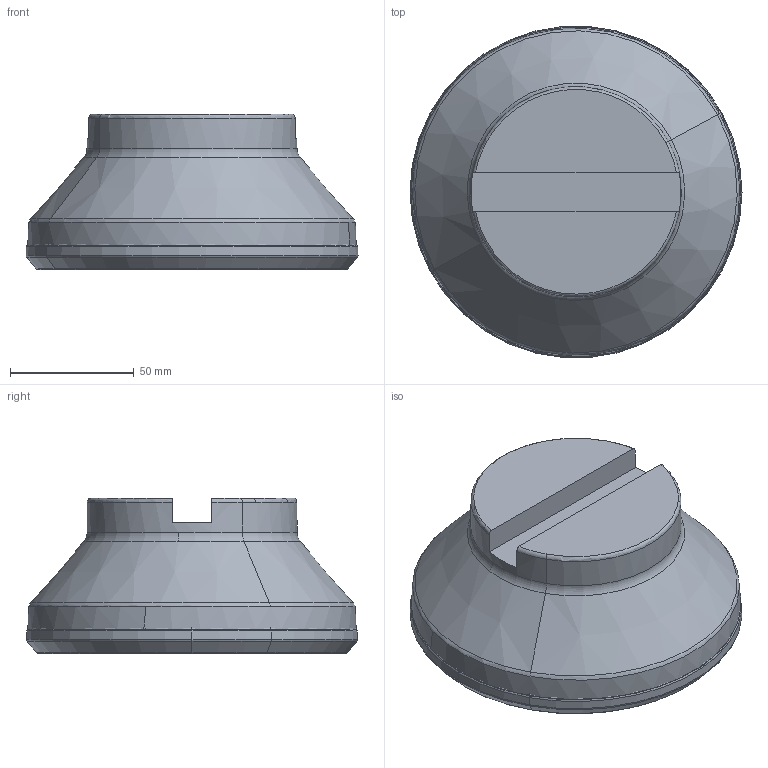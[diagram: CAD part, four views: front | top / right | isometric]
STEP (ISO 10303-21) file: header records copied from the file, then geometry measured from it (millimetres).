
FILE_DESCRIPTION(('CATIA V5 STEP','CAx-IF Rec.Pracs.--- Model Styling and Organization---1.2---2011-12-15'),'2;1');
FILE_NAME('N:\data\isr\design\special1\users\EVA_U\Requests\NPA\3106859_IQ845 FSYD125-09-38.1-R07\IQ845 FSYD125-09-38.1-R07.stp','2014-09-01T08:54:31+00:00',('none'),('none'),'CATIA Version 5 Release 21 SP 5 (IN-10)','CATIA V5 STEP AP214','none');
FILE_SCHEMA(('AUTOMOTIVE_DESIGN { 1 0 10303 214 1 1 1 1 }'));
Length unit declared in the file: millimetre
Products named in the file (1): IQ845 FSYD125-09-38.1-R07
Bounding box: 134.21 x 133.78 x 63 mm (x, y, z)
Volume: 574880.8 mm3; surface area: 63187.1 mm2
Topology: 2 solids, 2 shells, 116 faces, 243 edges, 130 vertices
Faces by surface type: revolution 84, torus 17, plane 7, cone 6, cylinder 2
Entity records: 4268 total; most frequent: CARTESIAN_POINT 1929, ORIENTED_EDGE 486, DIRECTION 301, EDGE_CURVE 243, B_SPLINE_CURVE_WITH_KNOTS 174, AXIS2_PLACEMENT_3D 162, VERTEX_POINT 130, CIRCLE 129
